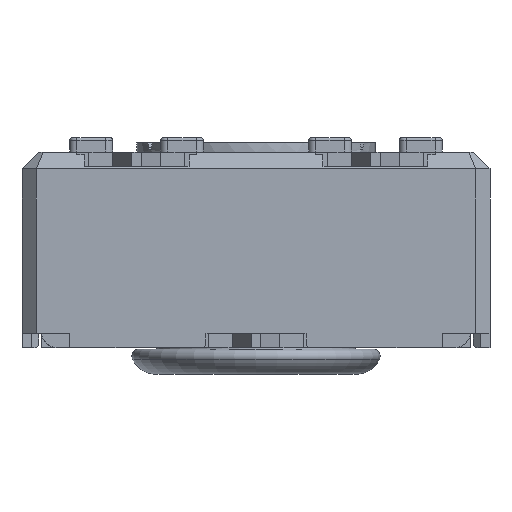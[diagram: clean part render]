
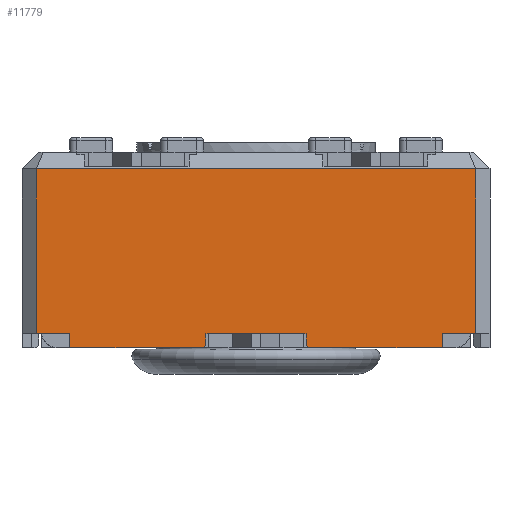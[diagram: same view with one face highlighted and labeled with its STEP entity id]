
A CAD part, front view. The second image highlights one B-rep face of the part: STEP entity #11779.
In plain terms, the highlighted planar face has unit normal (0, -1, 0).
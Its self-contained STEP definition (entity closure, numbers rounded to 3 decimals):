
#1034=FACE_OUTER_BOUND('',#1639,.T.);
#1639=EDGE_LOOP('',(#10505,#10506,#10507,#10508,#10509,#10510,#10511,#10512,
#10513,#10514,#10515,#10516,#10517,#10518,#10519,#10520));
#2186=LINE('',#17156,#3566);
#2288=LINE('',#17372,#3668);
#2294=LINE('',#17384,#3674);
#2302=LINE('',#17400,#3682);
#2308=LINE('',#17411,#3688);
#2500=LINE('',#17988,#3880);
#2506=LINE('',#17998,#3886);
#2509=LINE('',#18005,#3889);
#2522=LINE('',#18030,#3902);
#2578=LINE('',#18138,#3958);
#2580=LINE('',#18143,#3960);
#2582=LINE('',#18146,#3962);
#2584=LINE('',#18151,#3964);
#2774=LINE('',#18610,#4154);
#3017=LINE('',#19171,#4397);
#3019=LINE('',#19178,#4399);
#3566=VECTOR('',#13904,10.);
#3668=VECTOR('',#14084,10.);
#3674=VECTOR('',#14090,10.);
#3682=VECTOR('',#14100,10.);
#3688=VECTOR('',#14106,10.);
#3880=VECTOR('',#14630,10.);
#3886=VECTOR('',#14638,10.);
#3889=VECTOR('',#14645,10.);
#3902=VECTOR('',#14666,10.);
#3958=VECTOR('',#14766,10.);
#3960=VECTOR('',#14774,10.);
#3962=VECTOR('',#14778,10.);
#3964=VECTOR('',#14786,10.);
#4154=VECTOR('',#15224,10.);
#4397=VECTOR('',#15763,10.);
#4399=VECTOR('',#15775,10.);
#4884=VERTEX_POINT('',#17150);
#4885=VERTEX_POINT('',#17154);
#4960=VERTEX_POINT('',#17371);
#4965=VERTEX_POINT('',#17381);
#4966=VERTEX_POINT('',#17383);
#4972=VERTEX_POINT('',#17397);
#4973=VERTEX_POINT('',#17399);
#4978=VERTEX_POINT('',#17409);
#5142=VERTEX_POINT('',#17986);
#5143=VERTEX_POINT('',#17987);
#5146=VERTEX_POINT('',#17996);
#5147=VERTEX_POINT('',#18003);
#5148=VERTEX_POINT('',#18004);
#5156=VERTEX_POINT('',#18029);
#5306=VERTEX_POINT('',#18607);
#5307=VERTEX_POINT('',#18609);
#6168=EDGE_CURVE('',#4884,#4885,#2186,.T.);
#6276=EDGE_CURVE('',#4960,#4884,#2288,.T.);
#6282=EDGE_CURVE('',#4966,#4965,#2294,.T.);
#6290=EDGE_CURVE('',#4973,#4972,#2302,.T.);
#6296=EDGE_CURVE('',#4885,#4978,#2308,.T.);
#6566=EDGE_CURVE('',#5142,#5143,#2500,.T.);
#6572=EDGE_CURVE('',#5142,#5146,#2506,.T.);
#6575=EDGE_CURVE('',#5147,#5148,#2509,.T.);
#6588=EDGE_CURVE('',#5156,#5148,#2522,.T.);
#6644=EDGE_CURVE('',#4960,#5147,#2578,.T.);
#6646=EDGE_CURVE('',#4965,#5156,#2580,.T.);
#6648=EDGE_CURVE('',#4973,#5146,#2582,.T.);
#6650=EDGE_CURVE('',#4978,#5143,#2584,.T.);
#6877=EDGE_CURVE('',#5306,#5307,#2774,.T.);
#7156=EDGE_CURVE('',#5307,#4972,#3017,.T.);
#7158=EDGE_CURVE('',#5306,#4966,#3019,.T.);
#10505=ORIENTED_EDGE('',*,*,#6566,.F.);
#10506=ORIENTED_EDGE('',*,*,#6572,.T.);
#10507=ORIENTED_EDGE('',*,*,#6648,.F.);
#10508=ORIENTED_EDGE('',*,*,#6290,.T.);
#10509=ORIENTED_EDGE('',*,*,#7156,.F.);
#10510=ORIENTED_EDGE('',*,*,#6877,.F.);
#10511=ORIENTED_EDGE('',*,*,#7158,.T.);
#10512=ORIENTED_EDGE('',*,*,#6282,.T.);
#10513=ORIENTED_EDGE('',*,*,#6646,.T.);
#10514=ORIENTED_EDGE('',*,*,#6588,.T.);
#10515=ORIENTED_EDGE('',*,*,#6575,.F.);
#10516=ORIENTED_EDGE('',*,*,#6644,.F.);
#10517=ORIENTED_EDGE('',*,*,#6276,.T.);
#10518=ORIENTED_EDGE('',*,*,#6168,.T.);
#10519=ORIENTED_EDGE('',*,*,#6296,.T.);
#10520=ORIENTED_EDGE('',*,*,#6650,.T.);
#10996=PLANE('',#12665);
#11779=ADVANCED_FACE('',(#1034),#10996,.T.);
#12665=AXIS2_PLACEMENT_3D('',#19179,#15776,#15777);
#13904=DIRECTION('',(1.,0.,0.));
#14084=DIRECTION('',(1.,0.,0.));
#14090=DIRECTION('',(1.,0.,0.));
#14100=DIRECTION('',(1.,0.,0.));
#14106=DIRECTION('',(1.,0.,0.));
#14630=DIRECTION('',(-0.707,0.,0.707));
#14638=DIRECTION('',(1.,0.,0.));
#14645=DIRECTION('',(-0.707,0.,-0.707));
#14666=DIRECTION('',(1.,0.,0.));
#14766=DIRECTION('',(0.,0.,-1.));
#14774=DIRECTION('',(0.,0.,-1.));
#14778=DIRECTION('',(0.,0.,-1.));
#14786=DIRECTION('',(0.,0.,-1.));
#15224=DIRECTION('',(1.,0.,0.));
#15763=DIRECTION('',(0.,0.,-1.));
#15775=DIRECTION('',(0.,0.,-1.));
#15776=DIRECTION('center_axis',(0.,-1.,0.));
#15777=DIRECTION('ref_axis',(0.,0.,-1.));
#17150=CARTESIAN_POINT('',(-27.448,-17.99,-3.8));
#17154=CARTESIAN_POINT('',(-25.448,-17.99,-3.8));
#17156=CARTESIAN_POINT('',(-21.848,-17.99,-3.8));
#17371=CARTESIAN_POINT('',(-27.498,-17.99,-3.8));
#17372=CARTESIAN_POINT('',(-21.848,-17.99,-3.8));
#17381=CARTESIAN_POINT('',(-30.348,-17.99,-3.8));
#17383=CARTESIAN_POINT('',(-31.048,-17.99,-3.8));
#17384=CARTESIAN_POINT('',(-21.848,-17.99,-3.8));
#17397=CARTESIAN_POINT('',(-21.848,-17.99,-3.8));
#17399=CARTESIAN_POINT('',(-22.548,-17.99,-3.8));
#17400=CARTESIAN_POINT('',(-21.848,-17.99,-3.8));
#17409=CARTESIAN_POINT('',(-25.398,-17.99,-3.8));
#17411=CARTESIAN_POINT('',(-21.848,-17.99,-3.8));
#17986=CARTESIAN_POINT('',(-25.348,-17.99,-4.1));
#17987=CARTESIAN_POINT('',(-25.398,-17.99,-4.05));
#17988=CARTESIAN_POINT('',(-27.81,-17.99,-1.637));
#17996=CARTESIAN_POINT('',(-22.548,-17.99,-4.1));
#17998=CARTESIAN_POINT('',(-21.848,-17.99,-4.1));
#18003=CARTESIAN_POINT('',(-27.498,-17.99,-4.05));
#18004=CARTESIAN_POINT('',(-27.548,-17.99,-4.1));
#18005=CARTESIAN_POINT('',(-27.385,-17.99,-3.938));
#18029=CARTESIAN_POINT('',(-30.348,-17.99,-4.1));
#18030=CARTESIAN_POINT('',(-21.848,-17.99,-4.1));
#18138=CARTESIAN_POINT('',(-27.498,-17.99,-3.8));
#18143=CARTESIAN_POINT('',(-30.348,-17.99,-3.8));
#18146=CARTESIAN_POINT('',(-22.548,-17.99,-3.8));
#18151=CARTESIAN_POINT('',(-25.398,-17.99,-3.8));
#18607=CARTESIAN_POINT('',(-31.048,-17.99,-0.35));
#18609=CARTESIAN_POINT('',(-21.848,-17.99,-0.35));
#18610=CARTESIAN_POINT('',(-28.748,-17.99,-0.35));
#19171=CARTESIAN_POINT('',(-21.848,-17.99,0.));
#19178=CARTESIAN_POINT('',(-31.048,-17.99,0.));
#19179=CARTESIAN_POINT('Origin',(-31.048,-17.99,0.));
